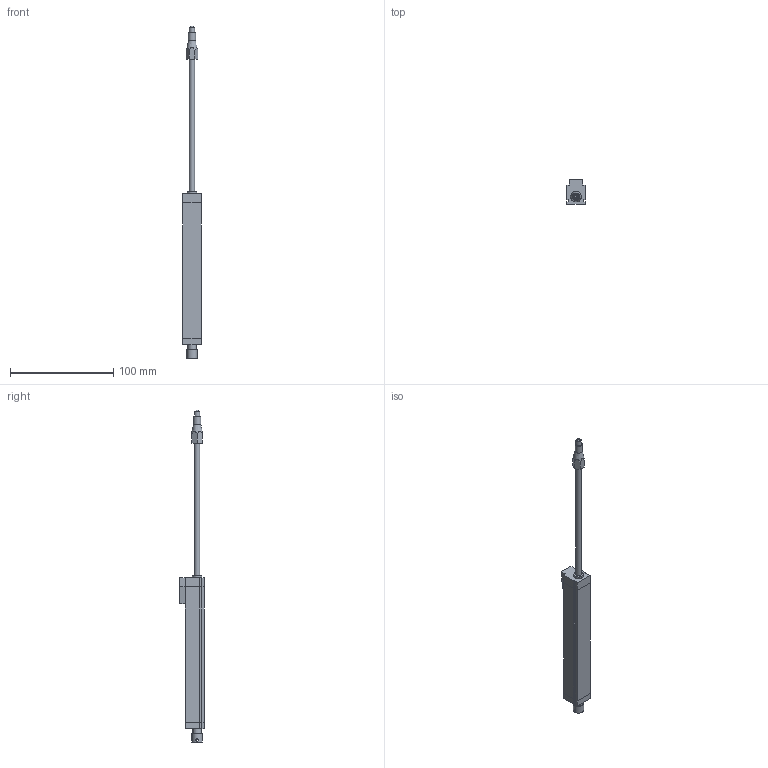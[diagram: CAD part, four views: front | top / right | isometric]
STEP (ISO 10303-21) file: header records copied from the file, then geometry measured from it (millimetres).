
FILE_DESCRIPTION(/* description */ ('','CAx-IF Rec.Pracs.---Representation and Presentation of Product Manufacturing Information (PMI)---3.8---2014-02-18'),/* implementation_level */ '2;1');
FILE_NAME(/* name */ 'C:\Users\JN\Documents\CAD Drawings\The Sensor Connection\3D\LPPS\LPPS-SL-100.stp',/* time_stamp */ '2017-01-05T13:30:27-05:00',/* author */ ('JN'),/* organization */ (''),/* preprocessor_version */ 'ST-DEVELOPER v16.5',/* originating_system */ 'Autodesk Inventor LT',/* authorisation */ '');
FILE_SCHEMA (('AP242_MANAGED_MODEL_BASED_3D_ENGINEERING_MIM_LF { 1 0 10303 442 1 1 4 }'));
Length unit declared in the file: inch
Products named in the file (1): LPPS-SL-100
Bounding box: 18.29 x 23.88 x 322.31 mm (x, y, z)
Volume: 55315.6 mm3; surface area: 18228.3 mm2
Topology: 5 solids, 5 shells, 78 faces, 189 edges, 125 vertices
Faces by surface type: plane 67, cylinder 9, cone 1, sphere 1
Full cylindrical faces by diameter (mm): 2.388 x2, 5.08 x2, 6.96 x1, 7.206 x1, 8.103 x1, 9.042 x1, 10 x1
Entity records: 2323 total; most frequent: CARTESIAN_POINT 510, ORIENTED_EDGE 336, DIRECTION 331, EDGE_CURVE 168, LINE 141, VECTOR 141, VERTEX_POINT 117, EDGE_LOOP 99
